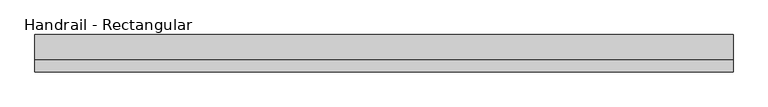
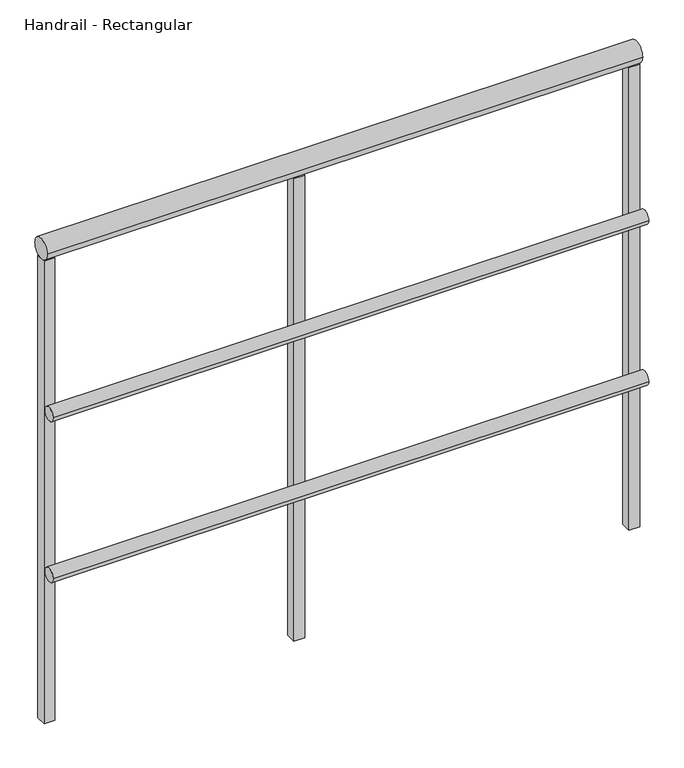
"""IFC4 building model written with IfcOpenShell, lengths in millimetres: railing geometry, Handrail - Rectangular."""

from ifc_helpers import new_model, si_unit, point, frame, frame_2d, origin, place, context, project, spatial, polyline, circle_curve, trimmed, segment, composite_curve, outline, extrude, source, transform, mapped, element, save


def handrail_rectangular_f862a09f(model_context):
    return source(origin(), model_context, "Body", "SweptSolid", [
        extrude(outline(composite_curve([segment(trimmed(circle_curve(frame_2d((-35578.5683133, 9740.9)), 12.7), [point((-35591.2683133, 9740.9))], [point((-35565.8683133, 9740.9))], False, "CARTESIAN"), True, "CONTINUOUS"), segment(trimmed(circle_curve(frame_2d((-35578.5683133, 9740.9)), 12.7), [point((-35565.8683133, 9740.9))], [point((-35591.2683133, 9740.9))], False, "CARTESIAN"), True, "CONTINUOUS")], self_intersect=False)), frame((-31964.2839563, 0.0, 0.0), z_axis=(1.0, 0.0, 0.0), x_axis=(0.0, 1.0, 0.0)), (0.0, 0.0, 1.0), 1066.8),
        extrude(outline(composite_curve([segment(trimmed(circle_curve(frame_2d((-35578.5683133, 9436.1)), 12.7), [point((-35591.2683133, 9436.1))], [point((-35565.8683133, 9436.1))], False, "CARTESIAN"), True, "CONTINUOUS"), segment(trimmed(circle_curve(frame_2d((-35578.5683133, 9436.1)), 12.7), [point((-35565.8683133, 9436.1))], [point((-35591.2683133, 9436.1))], False, "CARTESIAN"), True, "CONTINUOUS")], self_intersect=False)), frame((-31964.2839563, 0.0, 0.0), z_axis=(1.0, 0.0, 0.0), x_axis=(0.0, 1.0, 0.0)), (0.0, 0.0, 1.0), 1066.8),
        extrude(outline(composite_curve([segment(trimmed(circle_curve(frame_2d((-35553.1683133, 10039.35)), 19.05), [point((-35572.2183133, 10039.35))], [point((-35534.1183133, 10039.35))], False, "CARTESIAN"), True, "CONTINUOUS"), segment(trimmed(circle_curve(frame_2d((-35553.1683133, 10039.35)), 19.05), [point((-35534.1183133, 10039.35))], [point((-35572.2183133, 10039.35))], False, "CARTESIAN"), True, "CONTINUOUS")], self_intersect=False)), frame((-31964.2839563, 0.0, 0.0), z_axis=(1.0, 0.0, 0.0), x_axis=(0.0, 1.0, 0.0)), (0.0, 0.0, 1.0), 1066.8),
        extrude(outline(polyline([(-31497.5589563, -35543.6433133), (-31497.5589563, -35562.6933133), (-31516.6089563, -35562.6933133), (-31516.6089563, -35543.6433133), (-31497.5589563, -35543.6433133)])), frame((0.0, 0.0, 9144.0), z_axis=(0.0, 0.0, 1.0), x_axis=(1.0, 0.0, 0.0)), (0.0, 0.0, 1.0), 876.3),
        extrude(outline(polyline([(-31945.2339563, -35543.6433133), (-31945.2339563, -35562.6933133), (-31964.2839563, -35562.6933133), (-31964.2839563, -35543.6433133), (-31945.2339563, -35543.6433133)])), frame((0.0, 0.0, 9144.0), z_axis=(0.0, 0.0, 1.0), x_axis=(1.0, 0.0, 0.0)), (0.0, 0.0, 1.0), 876.3),
        extrude(outline(polyline([(-30897.4839563, -35543.6433133), (-30897.4839563, -35562.6933133), (-30916.5339563, -35562.6933133), (-30916.5339563, -35543.6433133), (-30897.4839563, -35543.6433133)])), frame((0.0, 0.0, 9144.0), z_axis=(0.0, 0.0, 1.0), x_axis=(1.0, 0.0, 0.0)), (0.0, 0.0, 1.0), 876.3),
    ])


if __name__ == "__main__":
    model = new_model("IFC4")
    model_context = context("Model", 3, world=origin())
    ifc_project = project(units=[si_unit("LENGTHUNIT", "METRE", prefix="MILLI")], contexts=[model_context])
    site = spatial("IfcSite", under=ifc_project)
    building = spatial("IfcBuilding", under=site)
    placement = place(None, origin())
    handrail_rectangular_shape = handrail_rectangular_f862a09f(model_context)
    element("IfcRailing", 1, ObjectType="Handrail - Rectangular", at=placement, inside=building, context=model_context, shape_type="MappedRepresentation", body=[
        mapped(handrail_rectangular_shape, transform((0.0, 0.0, 0.0), x_axis=(1.0, 0.0, 0.0), y_axis=(0.0, 1.0, 0.0), z_axis=(0.0, 0.0, 1.0))),
    ])
    save(model, "model.ifc")
